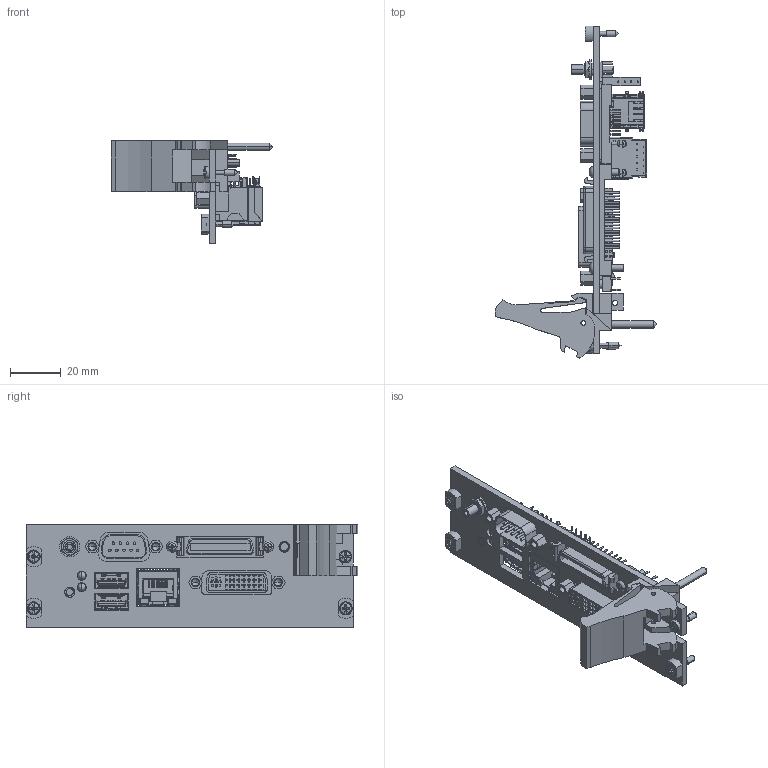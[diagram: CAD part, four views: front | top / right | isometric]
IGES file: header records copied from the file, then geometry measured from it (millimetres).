
Start section:  PTC IGES file: cu_pxi-8101.igs
Global section: file name: cu_pxi-8101.igs; native system: Pro/ENGINEER by Parametric Technology Corporation; preprocessor: 2011490; author: talbott; organization: Unknown; date: 20130606.134815; units: inch
Bounding box: 63.53 x 130.52 x 40.34 mm (x, y, z)
Surface area: 33270.5 mm2 (no closed solid volume)
Topology: 0 solids, 0 shells, 2313 faces, 14138 edges, 14116 vertices
Faces by surface type: bspline 1677, revolution 636
